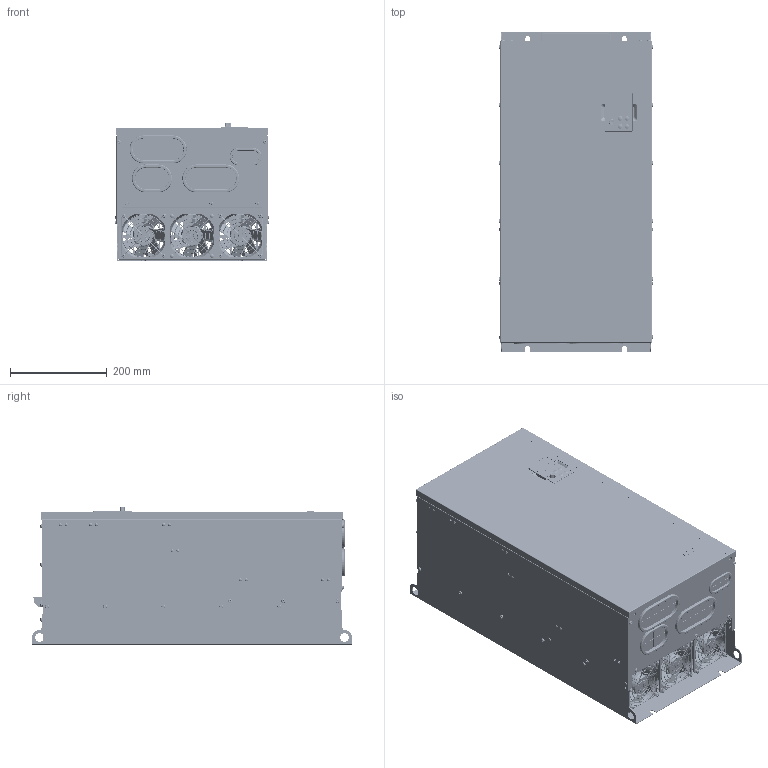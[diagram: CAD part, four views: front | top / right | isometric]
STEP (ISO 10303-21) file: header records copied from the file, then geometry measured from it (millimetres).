
FILE_DESCRIPTION((''),'2;1');
FILE_NAME('AD80-S6-DRIVE_ASM','2025-06-27T10:12:05',('wendong.luo'),(''),'CREO PARAMETRIC BY PTC INC, 2024374','CREO PARAMETRIC BY PTC INC, 2024374','');
FILE_SCHEMA(('CONFIG_CONTROL_DESIGN','GEOMETRIC_VALIDATION_PROPERTIES_MIM'));
Products named in the file (52): AD80-S6-MECHANICAL; FAN9238; M0200019; M0202090; M4-SPRING; M4-WASHER; M0202090_ASM; FAN-9238-ASSY_ASM; M0204027; M0204023; M0204033; SET310-D; M0100015; M0203250; M0203247; M0104220; M0202008; P_FHS_5_10; PEM-BSO-M4-10; RIVETING-NUT-4_; M0202003; M0202010; M10-25; M10-SPRING_FLAT; M10-WASHER; M0202036_ASM; FASTEN-S6_ASM; E0100880; E0400088; E0400085; E0400023; E0400067; E0400008; E0400009; E0400035; E0100880_ASM; M0203190; M0100259; M0100259_ASM; M0203053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
Assembly tree (177 placements, depth 5):
  AD80-S6-DRIVE_ASM
    AD80-S6-PU_ASM
      AD80-S6-MECHANICAL
      FAN-9238-ASSY_ASM  x3
        FAN9238
        M0200019
        M0202090_ASM
          M0202090
          M4-SPRING
          M4-WASHER
      M0204027  x2
      M0204023
      M0204033  x2
      SET310-D  x8
      M0100015  x2
      M0203250
      M0203247
      M0104220
      FASTEN-S6_ASM
        M0202008  x34
        P_FHS_5_10  x4
        PEM-BSO-M4-10  x4
        RIVETING-NUT-4_  x22
        M0202003  x29
        M0202010  x10
        M0202036_ASM  x8
          M10-25
          M10-SPRING_FLAT
          M10-WASHER
      E0100880_ASM
        E0100880
        E0400088
        E0400085  x2
        E0400023
        E0400067
        E0400008
        E0400009  x2
        E0400035
      M0203190
      M0100259_ASM
        M0100259
      M0203053
    AD80-KP10_ASM
      KP10-MECHANICAL-PART
      E0100867_ASM
        E0100867
        E0400170
        E0400169
        E0200192
        E0200191
        0805-LED  x6
      KP10-FOIL
Bounding box: 318.6 x 660 x 283.8 mm (x, y, z)
Volume: 2656574.5 mm3; surface area: 3343492.5 mm2
Topology: 305 solids, 419 shells, 29038 faces, 75765 edges, 48413 vertices
Faces by surface type: plane 14633, cylinder 6985, bspline 3422, extrusion 1287, torus 1181, cone 1156, sphere 374
Entity records: 638627 total; most frequent: CARTESIAN_POINT 160591, ORIENTED_EDGE 73580, DIRECTION 64034, EDGE_CURVE 37010, PRESENTATION_STYLE_ASSIGNMENT 32831, STYLED_ITEM 29406, CURVE_STYLE 28146, VECTOR 24334
